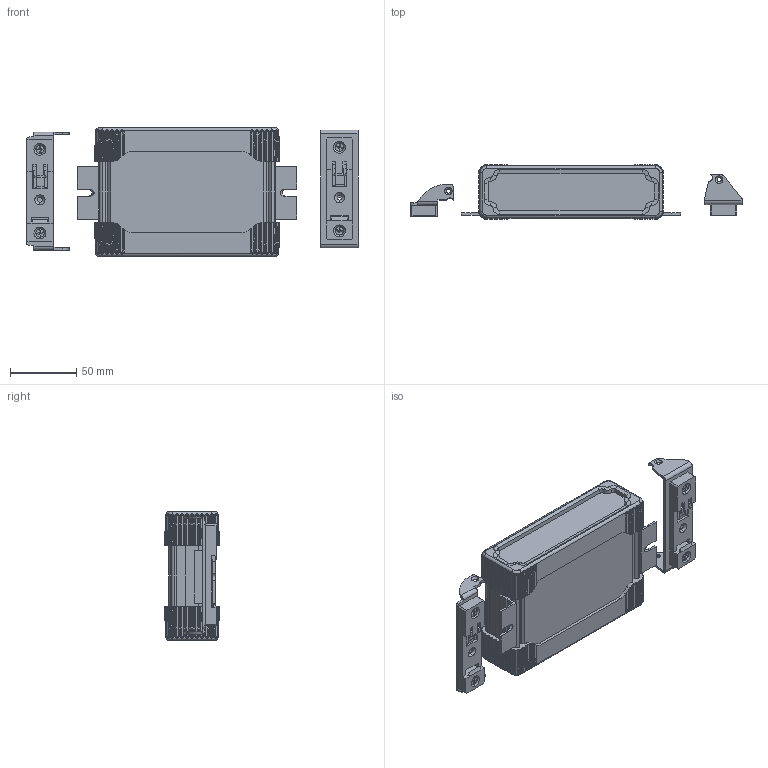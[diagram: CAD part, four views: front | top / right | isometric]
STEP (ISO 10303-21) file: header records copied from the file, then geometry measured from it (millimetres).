
FILE_DESCRIPTION (( 'STEP AP214' ), '1' );
FILE_NAME ('B5-080 Assembly.STEP', '2025-06-12T01:36:22', ( '' ), ( '' ), 'SwSTEP 2.0', 'SolidWorks 2025', '' );
FILE_SCHEMA (( 'AUTOMOTIVE_DESIGN' ));
Length unit declared in the file: millimetre
Products named in the file (18): B5-080 Main Body; End Plate; BRH080 assembly; SEALING WASHER; MF-40; BRV080; Pusher; CR-FHMS 0.138-32x0.375x0.375-N_CR-FHMS 0.138-32x0.375x0.375-N; Clamp mechanism; spring; Screw assembly; BRV080 assembly; BRH080; Torx Screw M3X0.5; B5-080 Assembly; SK1 Seal; EC5_END_CAP_OPTIONAL_ACCESSORY_1; 6-32 PEM Nut
Assembly tree (39 placements, depth 3):
  B5-080 Assembly
    B5-080 Main Body
    SK1 Seal  x4
    End Plate  x2
    Screw assembly  x8
      SEALING WASHER
      Torx Screw M3X0.5
    EC5_END_CAP_OPTIONAL_ACCESSORY_1  x2
    MF-40  x2
    BRH080 assembly
      Clamp mechanism
      BRH080
      Pusher
      spring
      6-32 PEM Nut  x2
      CR-FHMS 0.138-32x0.375x0.375-N_CR-FHMS 0.138-32x0.375x0.375-N  x2
    BRV080 assembly
      Clamp mechanism
      Pusher
      spring
      6-32 PEM Nut  x2
      CR-FHMS 0.138-32x0.375x0.375-N_CR-FHMS 0.138-32x0.375x0.375-N  x2
      BRV080
Bounding box: 249.84 x 41 x 96.5 mm (x, y, z)
Volume: 169584.9 mm3; surface area: 164501.1 mm2
Topology: 43 solids, 43 shells, 2727 faces, 7009 edges, 4406 vertices
Faces by surface type: cylinder 859, plane 846, bspline 690, cone 300, torus 32
Entity records: 67704 total; most frequent: CARTESIAN_POINT 27710, ORIENTED_EDGE 7332, DIRECTION 5497, EDGE_CURVE 3666, VERTEX_POINT 2315, AXIS2_PLACEMENT_3D 1875, VECTOR 1747, LINE 1747
